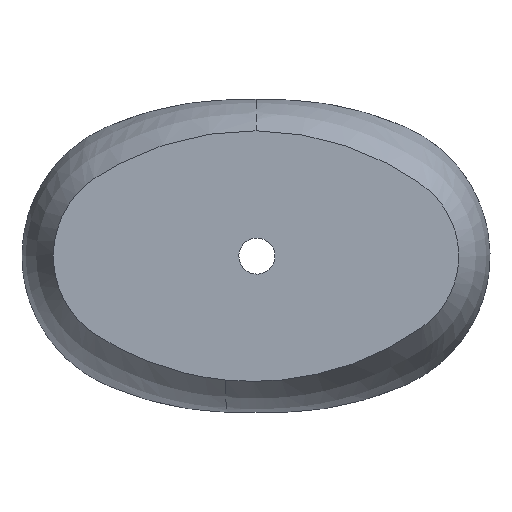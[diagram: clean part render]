
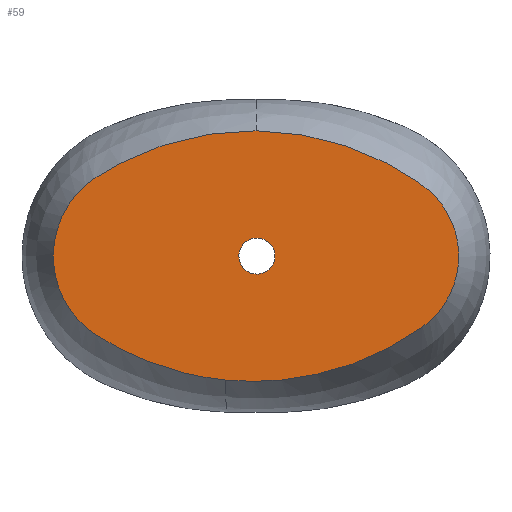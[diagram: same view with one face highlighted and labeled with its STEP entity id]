
A CAD part, front view. The second image highlights one B-rep face of the part: STEP entity #59.
In plain terms, the highlighted planar face has unit normal (0, -1, 0).
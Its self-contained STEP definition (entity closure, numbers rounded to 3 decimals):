
#17=FACE_BOUND('',#127,.T.);
#20=PLANE('',#589);
#59=ADVANCED_FACE('',(#92,#17),#20,.T.);
#92=FACE_OUTER_BOUND('',#126,.T.);
#126=EDGE_LOOP('',(#279,#280));
#127=EDGE_LOOP('',(#281,#282));
#279=ORIENTED_EDGE('',*,*,#380,.F.);
#280=ORIENTED_EDGE('',*,*,#383,.T.);
#281=ORIENTED_EDGE('',*,*,#381,.T.);
#282=ORIENTED_EDGE('',*,*,#387,.T.);
#380=EDGE_CURVE('',#504,#503,#562,.T.);
#381=EDGE_CURVE('',#460,#506,#448,.T.);
#383=EDGE_CURVE('',#504,#503,#564,.T.);
#387=EDGE_CURVE('',#506,#460,#450,.T.);
#448=(
BOUNDED_CURVE()
B_SPLINE_CURVE(2,(#7959,#7960,#7961,#7962,#7963),.UNSPECIFIED.,.F.,.F.)
B_SPLINE_CURVE_WITH_KNOTS((3,2,3),(-144.513,-108.385,-72.257),
 .UNSPECIFIED.)
CURVE()
GEOMETRIC_REPRESENTATION_ITEM()
RATIONAL_B_SPLINE_CURVE((1.,0.707,1.,0.707,1.))
REPRESENTATION_ITEM('')
);
#450=(
BOUNDED_CURVE()
B_SPLINE_CURVE(2,(#8039,#8040,#8041,#8042,#8043),.UNSPECIFIED.,.F.,.F.)
B_SPLINE_CURVE_WITH_KNOTS((3,2,3),(-72.257,-36.128,
0.),.UNSPECIFIED.)
CURVE()
GEOMETRIC_REPRESENTATION_ITEM()
RATIONAL_B_SPLINE_CURVE((1.,0.707,1.,0.707,1.))
REPRESENTATION_ITEM('')
);
#460=VERTEX_POINT('',#5145);
#503=VERTEX_POINT('',#5188);
#504=VERTEX_POINT('',#5189);
#506=VERTEX_POINT('',#5191);
#562=B_SPLINE_CURVE_WITH_KNOTS('',3,(#7935,#7936,#7937,#7938,#7939,#7940,
#7941,#7942,#7943,#7944,#7945,#7946,#7947,#7948,#7949,#7950,#7951,#7952,
#7953,#7954,#7955,#7956,#7957,#7958),.UNSPECIFIED.,.F.,.F.,(4,2,2,2,2,2,
2,2,2,2,2,4),(6.719,14.596,29.51,31.007,
35.401,40.522,46.229,51.591,54.27,
58.155,91.869,120.156),.UNSPECIFIED.);
#564=B_SPLINE_CURVE_WITH_KNOTS('',3,(#8000,#8001,#8002,#8003,#8004,#8005,
#8006,#8007,#8008,#8009,#8010,#8011,#8012,#8013,#8014,#8015,#8016,#8017,
#8018,#8019,#8020,#8021,#8022,#8023,#8024,#8025,#8026,#8027,#8028,#8029),
 .UNSPECIFIED.,.F.,.F.,(4,3,2,2,3,2,2,2,2,2,2,2,2,4),(-6.719,
0.,13.108,16.051,31.001,42.665,
67.56,91.601,113.531,132.841,138.054,
140.943,177.117,182.157),.UNSPECIFIED.);
#589=AXIS2_PLACEMENT_3D('',#4719,#597,$);
#597=DIRECTION('',(0.,-1.,0.));
#4719=CARTESIAN_POINT('',(-259.805,-140.,112.92));
#5145=CARTESIAN_POINT('',(1.126,-140.,-73.003));
#5188=CARTESIAN_POINT('',(-38.685,-140.,-208.31));
#5189=CARTESIAN_POINT('',(0.,-139.996,110.003));
#5191=CARTESIAN_POINT('',(1.126,-140.,-27.003));
#7935=CARTESIAN_POINT('',(0.,-139.996,110.003));
#7936=CARTESIAN_POINT('',(25.54,-139.996,109.781));
#7937=CARTESIAN_POINT('',(50.729,-139.996,106.911));
#7938=CARTESIAN_POINT('',(121.56,-139.996,91.551));
#7939=CARTESIAN_POINT('',(164.167,-139.996,73.042));
#7940=CARTESIAN_POINT('',(205.411,-139.996,45.622));
#7941=CARTESIAN_POINT('',(210.619,-139.996,42.057));
#7942=CARTESIAN_POINT('',(224.412,-139.996,31.726));
#7943=CARTESIAN_POINT('',(233.043,-139.997,22.495));
#7944=CARTESIAN_POINT('',(247.836,-139.997,0.479));
#7945=CARTESIAN_POINT('',(253.266,-139.997,-12.481));
#7946=CARTESIAN_POINT('',(259.515,-139.997,-40.645));
#7947=CARTESIAN_POINT('',(259.664,-139.997,-55.567));
#7948=CARTESIAN_POINT('',(254.716,-139.998,-83.104));
#7949=CARTESIAN_POINT('',(249.697,-139.998,-96.92));
#7950=CARTESIAN_POINT('',(237.392,-139.998,-116.323));
#7951=CARTESIAN_POINT('',(232.788,-139.998,-122.126));
#7952=CARTESIAN_POINT('',(220.533,-139.998,-134.907));
#7953=CARTESIAN_POINT('',(214.362,-139.998,-139.343));
#7954=CARTESIAN_POINT('',(169.039,-139.999,-171.226));
#7955=CARTESIAN_POINT('',(124.035,-139.999,-190.715));
#7956=CARTESIAN_POINT('',(38.315,-139.999,-209.853));
#7957=CARTESIAN_POINT('',(-0.812,-140.,-211.964));
#7958=CARTESIAN_POINT('',(-38.685,-140.,-208.31));
#7959=CARTESIAN_POINT('',(1.126,-140.,-73.003));
#7960=CARTESIAN_POINT('',(-21.874,-140.,-73.003));
#7961=CARTESIAN_POINT('',(-21.874,-140.,-50.003));
#7962=CARTESIAN_POINT('',(-21.874,-140.,-27.003));
#7963=CARTESIAN_POINT('',(1.126,-140.,-27.003));
#8000=CARTESIAN_POINT('',(0.,-139.996,110.003));
#8001=CARTESIAN_POINT('',(-21.783,-139.996,110.192));
#8002=CARTESIAN_POINT('',(-43.821,-139.997,108.455));
#8003=CARTESIAN_POINT('',(-65.892,-139.997,104.66));
#8004=CARTESIAN_POINT('',(-108.954,-139.998,97.257));
#8005=CARTESIAN_POINT('',(-150.379,-139.998,82.285));
#8006=CARTESIAN_POINT('',(-196.735,-139.999,55.517));
#8007=CARTESIAN_POINT('',(-203.22,-140.,51.303));
#8008=CARTESIAN_POINT('',(-211.927,-140.,45.598));
#8009=CARTESIAN_POINT('',(-218.74,-140.,40.009));
#8010=CARTESIAN_POINT('',(-224.936,-140.,33.633));
#8011=CARTESIAN_POINT('',(-229.77,-140.,28.658));
#8012=CARTESIAN_POINT('',(-234.227,-140.,23.203));
#8013=CARTESIAN_POINT('',(-246.787,-140.,4.658));
#8014=CARTESIAN_POINT('',(-253.058,-140.,-9.767));
#8015=CARTESIAN_POINT('',(-259.503,-140.,-40.603));
#8016=CARTESIAN_POINT('',(-259.795,-140.,-56.646));
#8017=CARTESIAN_POINT('',(-253.903,-140.,-87.279));
#8018=CARTESIAN_POINT('',(-248.323,-140.,-101.656));
#8019=CARTESIAN_POINT('',(-232.337,-140.,-126.525));
#8020=CARTESIAN_POINT('',(-222.688,-140.,-137.111));
#8021=CARTESIAN_POINT('',(-207.865,-140.,-148.264));
#8022=CARTESIAN_POINT('',(-205.326,-140.,-149.993));
#8023=CARTESIAN_POINT('',(-197.063,-140.,-155.182));
#8024=CARTESIAN_POINT('',(-194.014,-140.,-157.04));
#8025=CARTESIAN_POINT('',(-151.249,-140.,-182.204));
#8026=CARTESIAN_POINT('',(-106.613,-140.,-198.547));
#8027=CARTESIAN_POINT('',(-52.142,-140.,-206.825));
#8028=CARTESIAN_POINT('',(-45.433,-140.,-207.659));
#8029=CARTESIAN_POINT('',(-38.685,-140.,-208.31));
#8039=CARTESIAN_POINT('',(1.126,-140.,-27.003));
#8040=CARTESIAN_POINT('',(24.126,-140.,-27.003));
#8041=CARTESIAN_POINT('',(24.126,-140.,-50.003));
#8042=CARTESIAN_POINT('',(24.126,-140.,-73.003));
#8043=CARTESIAN_POINT('',(1.126,-140.,-73.003));
